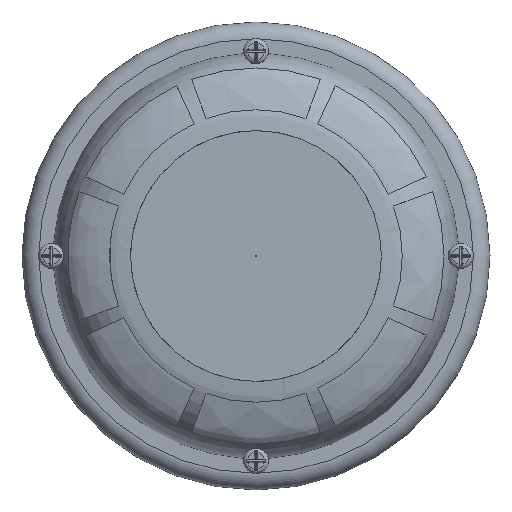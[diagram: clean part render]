
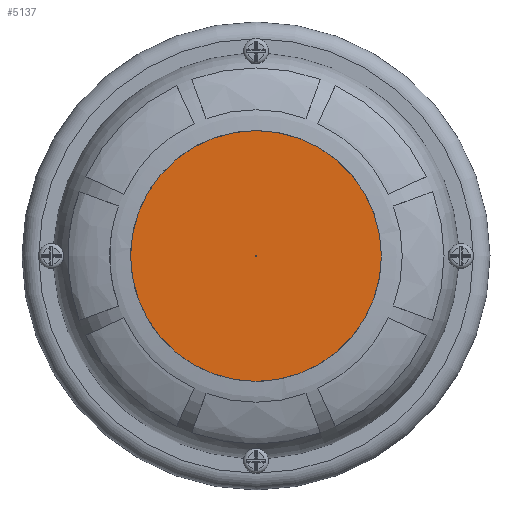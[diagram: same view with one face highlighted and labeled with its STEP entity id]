
A CAD part, left-side view. The second image highlights one B-rep face of the part: STEP entity #5137.
In plain terms, the highlighted planar face has unit normal (-1, 0, 0) as drawn and (0, 0, 1) by its records, which use the part's own axes.
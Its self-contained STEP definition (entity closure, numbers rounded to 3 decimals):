
#1030=PLANE('',#5753);
#1398=FACE_OUTER_BOUND('',#1785,.T.);
#1785=EDGE_LOOP('',(#3968));
#2154=CIRCLE('',#5752,15.);
#2472=VERTEX_POINT('',#10268);
#3028=EDGE_CURVE('',#2472,#2472,#2154,.T.);
#3968=ORIENTED_EDGE('',*,*,#3028,.T.);
#5137=ADVANCED_FACE('',(#1398),#1030,.T.);
#5752=AXIS2_PLACEMENT_3D('',#10269,#6605,#6606);
#5753=AXIS2_PLACEMENT_3D('',#10270,#6607,#6608);
#6605=DIRECTION('center_axis',(0.,0.,1.));
#6606=DIRECTION('ref_axis',(-1.,0.,0.));
#6607=DIRECTION('center_axis',(0.,0.,1.));
#6608=DIRECTION('ref_axis',(1.,0.,0.));
#10268=CARTESIAN_POINT('',(15.,0.,2.));
#10269=CARTESIAN_POINT('Origin',(0.,0.,2.));
#10270=CARTESIAN_POINT('Origin',(0.,0.,2.));
